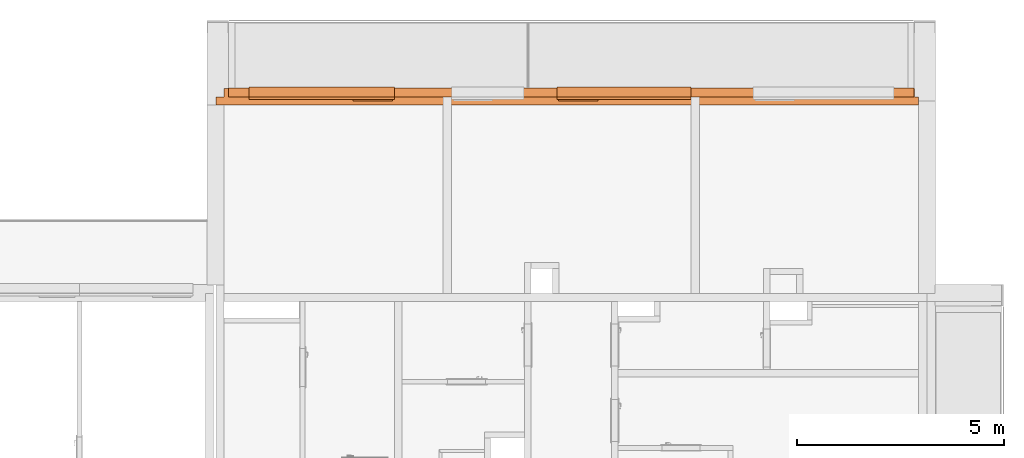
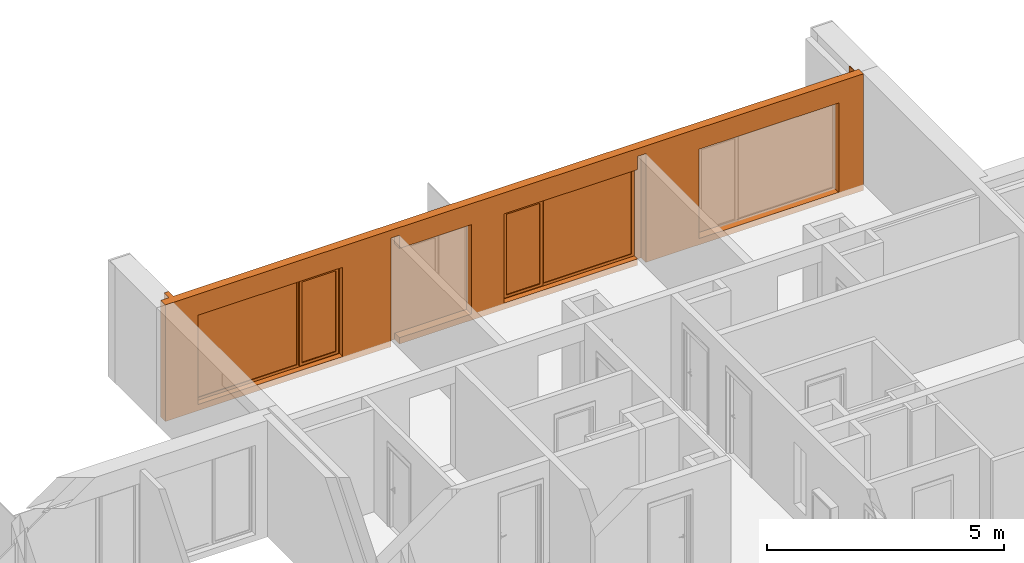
# One storey, part 48 of 64: 3 proxies, 4 openings.
"""IFC2X3 building model written with IfcOpenShell, lengths in millimetres."""

import ifcopenshell
import ifcopenshell.guid

model = None  # the IFC model being written
_history = None  # IfcOwnerHistory: only IFC2X3 demands one
_inside = {}  # id of a spatial element -> (the spatial element, [elements in it])
_under = {}  # id of a project, library or spatial element -> (it, [spatial elements below it])
_declared = {}  # id of a project -> (the project, [libraries it declares])
_typed = {}  # id of a type object -> (the type object, [elements of that type])
_made_of = {}  # id of a material, layer set ... -> (it, [elements and type objects made of it])


def new_model(schema):
    """Start an empty IFC model of exactly this schema.

    Asked for "IFC4X3", IfcOpenShell would pick the latest addendum, in which some entities
    have other attributes; the version numbers below select the first issue.
    IFC2X3 requires an IfcOwnerHistory on every rooted entity: one is made here for all.
    """
    global model, _history
    if schema == "IFC4X3":
        model = ifcopenshell.file(schema_version=(4, 3, 0, 0))
    else:
        model = ifcopenshell.file(schema=schema)
    _inside.clear()
    _under.clear()
    _declared.clear()
    _typed.clear()
    _made_of.clear()
    _history = None
    if model.schema == "IFC2X3":
        org = make("IfcOrganization", Name="unknown")
        user = make(
            "IfcPersonAndOrganization",
            ThePerson=make("IfcPerson", FamilyName="unknown"),
            TheOrganization=org,
        )
        app = make(
            "IfcApplication",
            ApplicationDeveloper=org,
            Version="unknown",
            ApplicationFullName="unknown",
            ApplicationIdentifier="unknown",
        )
        _history = make(
            "IfcOwnerHistory",
            OwningUser=user,
            OwningApplication=app,
            ChangeAction="ADDED",
            CreationDate=0,
        )
    return model


def make(cls, **values):
    """One entity of the class cls with the attributes given. An attribute that is None is left unset."""
    return model.create_entity(
        cls, **{name: value for name, value in values.items() if value is not None}
    )


def entity(cls, *values):
    """Any entity or typed value of the class cls, its attributes in the order of the schema. None: left unset."""
    e = model.create_entity(cls)
    for i, value in enumerate(values):
        if value is not None:
            e[i] = value
    return e


def rooted(cls, **values):
    """An entity with a GlobalId (a new one), such as an element, a storey or a relation."""
    return make(cls, GlobalId=ifcopenshell.guid.new(), OwnerHistory=_history, **values)


def si_unit(unit_type, name, prefix=None):
    """IfcSIUnit, for example si_unit("LENGTHUNIT", "METRE", prefix="MILLI")."""
    return make("IfcSIUnit", UnitType=unit_type, Prefix=prefix, Name=name)


def converted_unit(unit_type, name, factor, base, dimensions=None, offset=None):
    """IfcConversionBasedUnit, such as the inch: factor (a typed value) times the base unit."""
    return make(
        "IfcConversionBasedUnit"
        if offset is None
        else "IfcConversionBasedUnitWithOffset",
        ConversionOffset=offset,
        Dimensions=None
        if dimensions is None
        else entity("IfcDimensionalExponents", *dimensions),
        UnitType=unit_type,
        Name=name,
        ConversionFactor=make(
            "IfcMeasureWithUnit", ValueComponent=factor, UnitComponent=base
        ),
    )


def derived_unit(unit_type, elements):
    """IfcDerivedUnit: a product of units, each with its exponent."""
    return make(
        "IfcDerivedUnit",
        Elements=[
            make("IfcDerivedUnitElement", Unit=unit, Exponent=power)
            for unit, power in elements
        ],
        UnitType=unit_type,
    )


def money_unit(currency):
    """IfcMonetaryUnit."""
    return make("IfcMonetaryUnit", Currency=currency)


def assignment(units):
    """IfcUnitAssignment: the units of a project."""
    return None if units is None else make("IfcUnitAssignment", Units=units)


def point(xyz):
    """IfcCartesianPoint."""
    return None if xyz is None else make("IfcCartesianPoint", Coordinates=xyz)


def direction(xyz):
    """IfcDirection."""
    return None if xyz is None else make("IfcDirection", DirectionRatios=xyz)


def frame(location, z_axis=None, x_axis=None):
    """IfcAxis2Placement3D, a coordinate frame: its origin and axes. An axis left out is left unset."""
    return make(
        "IfcAxis2Placement3D",
        Location=point(location),
        Axis=direction(z_axis),
        RefDirection=direction(x_axis),
    )


def frame_2d(location, x_axis=None):
    """IfcAxis2Placement2D, a coordinate frame in the plane: its origin and x axis."""
    return make(
        "IfcAxis2Placement2D", Location=point(location), RefDirection=direction(x_axis)
    )


def origin_with_axes():
    """The frame at (0, 0, 0) with the z axis (0, 0, 1) and the x axis (1, 0, 0) written out."""
    return frame((0.0, 0.0, 0.0), z_axis=(0.0, 0.0, 1.0), x_axis=(1.0, 0.0, 0.0))


def origin_2d_with_axis():
    """The frame at (0, 0) in the plane with the x axis (1, 0) written out."""
    return frame_2d((0.0, 0.0), x_axis=(1.0, 0.0))


def place(relative_to, where):
    """IfcLocalPlacement: puts the frame where relative to a parent placement (None: the world)."""
    return make(
        "IfcLocalPlacement", PlacementRelTo=relative_to, RelativePlacement=where
    )


def context(
    kind, dimensions, precision=None, world=None, true_north=None, identifier=None
):
    """IfcGeometricRepresentationContext, for example the 3D "Model" context."""
    return make(
        "IfcGeometricRepresentationContext",
        ContextIdentifier=identifier,
        ContextType=kind,
        CoordinateSpaceDimension=dimensions,
        Precision=precision,
        WorldCoordinateSystem=world,
        TrueNorth=true_north,
    )


def subcontext(parent, identifier, kind, view, scale=None):
    """IfcGeometricRepresentationSubContext, for example "Body" below "Model"."""
    return make(
        "IfcGeometricRepresentationSubContext",
        ContextIdentifier=identifier,
        ContextType=kind,
        ParentContext=parent,
        TargetScale=scale,
        TargetView=view,
    )


def project(units=None, contexts=None):
    """IfcProject with its units and contexts."""
    return rooted(
        "IfcProject",
        Name="project",
        RepresentationContexts=contexts,
        UnitsInContext=assignment(units),
    )


def spatial(cls, under=None, at=None, **own):
    """A site, building, storey or space (cls), placed at a placement, below another one or the project."""
    s = rooted(cls, ObjectPlacement=at, **own)
    if under is not None:
        _under.setdefault(under.id(), (under, []))[1].append(s)
    return s


def profile(cls, at=None, kind="AREA", **sizes):
    """A parametric profile (cls). Its sizes go by their IFC names, for example OverallWidth=200.0."""
    return make(cls, ProfileType=kind, Position=at, **sizes)


def rectangle(**sizes):
    """IfcRectangleProfileDef."""
    return profile("IfcRectangleProfileDef", **sizes)


def extrude(swept, where, along, depth):
    """IfcExtrudedAreaSolid: the profile swept, set in the frame where, extruded along a direction by depth."""
    return make(
        "IfcExtrudedAreaSolid",
        SweptArea=swept,
        Position=where,
        ExtrudedDirection=direction(along),
        Depth=depth,
    )


def faces_of(points, faces, orient=None, outer=None):
    """IfcFace entities. A face is a list of loops; a loop is a list of indices into points, from 0.

    orient and outer hold one flag for each loop. By default every Orientation is true, the
    first loop of a face is its IfcFaceOuterBound and the others are IfcFaceBound.
    """
    made = []
    for i, loops in enumerate(faces):
        bounds = []
        for j, loop in enumerate(loops):
            is_outer = j == 0 if outer is None else outer[i][j]
            bounds.append(
                make(
                    "IfcFaceOuterBound" if is_outer else "IfcFaceBound",
                    Bound=make("IfcPolyLoop", Polygon=[points[k] for k in loop]),
                    Orientation=True if orient is None else orient[i][j],
                )
            )
        made.append(make("IfcFace", Bounds=bounds))
    return made


def open_shell(faces, orient=None, outer=None):
    """The faces of one IfcOpenShell. surface_model builds it on its shared points."""
    return ("IfcOpenShell", faces, orient, outer)


def faceted_brep(points, faces, orient=None, outer=None, voids=None):
    """IfcFacetedBrep: a solid bounded by flat faces; with voids (closed shells), ...WithVoids."""
    shared = [point(p) for p in points]
    hull = make("IfcClosedShell", CfsFaces=faces_of(shared, faces, orient, outer))
    if voids is None:
        return make("IfcFacetedBrep", Outer=hull)
    return make(
        "IfcFacetedBrepWithVoids",
        Outer=hull,
        Voids=[
            make(cls, CfsFaces=faces_of(shared, fs, o, b)) for cls, fs, o, b in voids
        ],
    )


def surface_model(cls, points, shells):
    """IfcFaceBasedSurfaceModel or IfcShellBasedSurfaceModel (cls): surfaces that need not close."""
    shared = [point(p) for p in points]
    made = [make(c, CfsFaces=faces_of(shared, fs, o, b)) for c, fs, o, b in shells]
    if cls == "IfcFaceBasedSurfaceModel":
        return make(cls, FbsmFaces=made)
    return make(cls, SbsmBoundary=made)


def shape(context_of_items, identifier, shape_type, items):
    """IfcShapeRepresentation: the items that make up one representation, for example the "Body"."""
    return make(
        "IfcShapeRepresentation",
        ContextOfItems=context_of_items,
        RepresentationIdentifier=identifier,
        RepresentationType=shape_type,
        Items=items,
    )


def source(mapping_origin, context_of_items, identifier, shape_type, items):
    """IfcRepresentationMap: a shape defined once, which mapped items show again and again."""
    return make(
        "IfcRepresentationMap",
        MappingOrigin=mapping_origin,
        MappedRepresentation=shape(context_of_items, identifier, shape_type, items),
    )


def transform(
    local_origin,
    x_axis=None,
    y_axis=None,
    z_axis=None,
    scale=None,
    scale2=None,
    scale3=None,
    uniform=True,
):
    """IfcCartesianTransformationOperator3D, or its non-uniform kind. x_axis, y_axis, z_axis: its Axis1, 2, 3."""
    if uniform:
        return make(
            "IfcCartesianTransformationOperator3D",
            Axis1=direction(x_axis),
            Axis2=direction(y_axis),
            LocalOrigin=point(local_origin),
            Scale=scale,
            Axis3=direction(z_axis),
        )
    return make(
        "IfcCartesianTransformationOperator3DnonUniform",
        Axis1=direction(x_axis),
        Axis2=direction(y_axis),
        LocalOrigin=point(local_origin),
        Scale=scale,
        Axis3=direction(z_axis),
        Scale2=scale2,
        Scale3=scale3,
    )


def mapped(mapping_source, mapping_target):
    """IfcMappedItem: shows the shape of a source again, moved by a transform."""
    return make(
        "IfcMappedItem", MappingSource=mapping_source, MappingTarget=mapping_target
    )


def material(Name=None, Category=None):
    """IfcMaterial."""
    return make("IfcMaterial", Name=Name, Category=Category)


def material_list(materials):
    """IfcMaterialList."""
    return make("IfcMaterialList", Materials=materials)


def made_of(thing, what):
    """Note that an element or type object is made of a material, layer set ...; save() writes the relation."""
    if what is not None:
        _made_of.setdefault(what.id(), (what, []))[1].append(thing)
    return thing


def type_object(cls, material=None, **own):
    """A type object (cls), such as IfcWallType, which elements share."""
    return made_of(rooted(cls, **own), material)


def element(
    cls,
    number,
    at=None,
    inside=None,
    cuts=None,
    type_object=None,
    material=None,
    context=None,
    identifier="Body",
    shape_type=None,
    held_by="IfcProductDefinitionShape",
    body=None,
    shapes=None,
    **own,
):
    """One element of the class cls, such as IfcWall. Its Tag is "e" and its number.

    at: its placement. inside: the storey or other place that contains it. cuts: it is an
    opening in that element (IfcRelVoidsElement). A single representation is given by context,
    identifier, shape_type and body (its items); several are given by shapes. held_by: the class
    of the entity that holds the representations. save() writes the other relations.
    """
    e = rooted(cls, Tag="e%d" % number, ObjectPlacement=at, **own)
    if body is not None:
        shapes = [shape(context, identifier, shape_type, body)]
    if shapes is not None:
        e.Representation = make(held_by, Representations=shapes)
    if inside is not None:
        _inside.setdefault(inside.id(), (inside, []))[1].append(e)
    if cuts is not None:
        rooted(
            "IfcRelVoidsElement", RelatingBuildingElement=cuts, RelatedOpeningElement=e
        )
    if type_object is not None:
        _typed.setdefault(type_object.id(), (type_object, []))[1].append(e)
    return made_of(e, material)


def fill(opening, filler):
    """IfcRelFillsElement: the door or window that sits in an opening."""
    return rooted(
        "IfcRelFillsElement",
        RelatingOpeningElement=opening,
        RelatedBuildingElement=filler,
    )


def aggregate(whole, parts):
    """IfcRelAggregates: a whole, such as a stair, and the parts it consists of."""
    return rooted("IfcRelAggregates", RelatingObject=whole, RelatedObjects=parts)


def save(model, path):
    """Write the relations noted so far, then the file.

    IfcRelAggregates (storeys below a building ...), IfcRelContainedInSpatialStructure (elements
    in a storey), IfcRelDefinesByType, IfcRelAssociatesMaterial and IfcRelDeclares: one each for
    every whole, place, type object, material and project.
    """
    for whole, parts in _under.values():
        aggregate(whole, parts)
    for where, things in _inside.values():
        rooted(
            "IfcRelContainedInSpatialStructure",
            RelatedElements=things,
            RelatingStructure=where,
        )
    for kind, things in _typed.values():
        rooted("IfcRelDefinesByType", RelatedObjects=things, RelatingType=kind)
    for what, things in _made_of.values():
        rooted("IfcRelAssociatesMaterial", RelatedObjects=things, RelatingMaterial=what)
    for by, libraries in _declared.values():
        rooted("IfcRelDeclares", RelatingContext=by, RelatedDefinitions=libraries)
    model.write(path)


model = new_model("IFC2X3")

# Units and contexts
model_context = context("Model", 3, precision=0.01, world=origin_with_axes(), true_north=direction((0.34421633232, 0.938890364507)))
body_context = subcontext(model_context, "Body", "Model", "MODEL_VIEW")
ifc_project = project(units=[si_unit("LENGTHUNIT", "METRE", prefix="MILLI"), si_unit("AREAUNIT", "SQUARE_METRE"), si_unit("VOLUMEUNIT", "CUBIC_METRE"), converted_unit("PLANEANGLEUNIT", "DEGREE", entity("IfcPlaneAngleMeasure", 0.0174532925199), si_unit("PLANEANGLEUNIT", "RADIAN"), dimensions=[0, 0, 0, 0, 0, 0, 0]), si_unit("SOLIDANGLEUNIT", "STERADIAN"), money_unit("USD"), converted_unit("TIMEUNIT", "Year", entity("IfcTimeMeasure", 31556926.0), si_unit("TIMEUNIT", "SECOND"), dimensions=[0, 0, 1, 0, 0, 0, 0]), si_unit("MASSUNIT", "GRAM", prefix="KILO"), si_unit("THERMODYNAMICTEMPERATUREUNIT", "DEGREE_CELSIUS"), si_unit("LUMINOUSINTENSITYUNIT", "LUMEN"), si_unit("ENERGYUNIT", "JOULE", prefix="MEGA"), derived_unit("THERMALCONDUCTANCEUNIT", [(si_unit("POWERUNIT", "WATT"), 1), (si_unit("LENGTHUNIT", "METRE"), -1), (si_unit("THERMODYNAMICTEMPERATUREUNIT", "KELVIN"), -1)]), derived_unit("SPECIFICHEATCAPACITYUNIT", [(si_unit("ENERGYUNIT", "JOULE"), 1), (si_unit("MASSUNIT", "GRAM", prefix="KILO"), -1), (si_unit("THERMODYNAMICTEMPERATUREUNIT", "KELVIN"), -1)]), derived_unit("MASSDENSITYUNIT", [(si_unit("MASSUNIT", "GRAM", prefix="KILO"), 1), (si_unit("VOLUMEUNIT", "CUBIC_METRE"), -1)])], contexts=[model_context])

# Site, building, storey
site_placement = place(None, origin_with_axes())
site = spatial("IfcSite", under=ifc_project, at=site_placement, Name="USTRONIE MORSKIE", CompositionType="ELEMENT")
building_placement = place(site_placement, origin_with_axes())
building = spatial("IfcBuilding", under=site, at=building_placement, Name="Budynek", CompositionType="ELEMENT")
storey_placement = place(building_placement, frame((0.0, 0.0, 7000.0), z_axis=(0.0, 0.0, 1.0), x_axis=(1.0, 0.0, 0.0)))
storey = spatial("IfcBuildingStorey", under=building, at=storey_placement, Name="PIĘTRO 2", CompositionType="ELEMENT", Elevation=7000.0)

# Proxies, openings
ifc_material_1 = material(Name="Beton konstrukcyjny B25")
ifc_material_2 = material(Name="Wełna ELEW")
ifc_material_3 = material(Name="Tynk zewnętrzny")
ifc_material_list = material_list([ifc_material_1, ifc_material_2, ifc_material_3])
building_element_proxy_type_1 = type_object("IfcBuildingElementProxyType", Name="20+20 410", PredefinedType="NOTDEFINED")
proxy_1_placement = place(storey_placement, frame((425567.928129, 749451.184716, -160.0), z_axis=(0.0, 0.0, 1.0), x_axis=(-1.0, 8.42333606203e-07, 0.0)))
proxy_1 = element("IfcBuildingElementProxy", 1, at=proxy_1_placement, inside=storey, type_object=building_element_proxy_type_1, material=ifc_material_list, Name="SZ-01", context=body_context, shape_type="Brep", body=[
    faceted_brep([(11400.0072945, -100.0, 0.0), (11400.0072945, -99.9999999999, 2800.0), (11600.0072945, -99.9999999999, 2800.0), (11600.0072945, -100.0, 0.0), (17100.0072945, -100.0, -4.94591034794e-08), (17100.0072945, -100.0, 3000.0), (100.007294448, -99.9999999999, 3000.0), (100.007294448, -99.9999999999, -1.44982692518e-07), (5400.00729445, -100.0, 0.0), (5400.00729445, -100.0, 2800.0), (5600.00729445, -100.0, 2800.0), (5600.00729445, -100.0, 0.0), (11400.007126, 100.0, 0.0), (11400.007126, 100.0, 2800.0), (11600.007126, 100.0, 2800.0), (11600.007126, 100.0, 0.0), (17100.007126, 100.0, -4.94591034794e-08), (17100.007126, 100.0, 3000.0), (100.007125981, 100.0, 3000.0), (100.007210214, 8.42334202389e-05, 3000.0), (100.007210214, 8.42334202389e-05, 0.0), (100.007125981, 100.0, 0.0), (5400.00712598, 100.0, 0.0), (5400.00712598, 100.0, 2800.0), (5600.00712598, 100.0, 2800.0), (5600.00712598, 100.0, 0.0)], [[[0, 1, 2, 3, 4, 5, 6, 7, 8, 9, 10, 11]], [[12, 13, 1, 0]], [[13, 14, 2, 1]], [[14, 15, 3, 2]], [[16, 4, 3, 15]], [[4, 16, 17, 5]], [[5, 17, 18, 19, 6]], [[19, 20, 7, 6]], [[20, 21, 22, 8, 7]], [[22, 23, 9, 8]], [[23, 24, 10, 9]], [[24, 25, 11, 10]], [[11, 25, 12, 0]], [[15, 14, 13, 12, 25, 24, 23, 22, 21, 18, 17, 16]], [[21, 20, 19, 18]]]),
    faceted_brep([(16900.0072945, -100.0, -8.13678013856e-08), (16900.0072945, -100.0, 3000.0), (16900.0074629, -300.0, 3000.0), (16900.0074629, -300.0, -8.13678013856e-08), (200.007294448, -99.9999999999, -2.8271545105e-06), (200.007294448, -99.9999999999, 3000.0), (1425.3540558, -99.9999999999, 3000.0), (1425.3540558, -99.9999999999, 2799.99999896), (16790.1383035, -100.0, 2799.99999896), (16790.1383035, -100.0, 3000.0), (16790.1393008, -199.846511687, 3000.00002271), (16790.1402996, -299.846536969, 3000.00002271), (16790.1403011, -300.0, 2999.99999495), (16790.1403011, -300.0, 9.99999623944), (16790.1403011, -300.0, 2.27125616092e-05), (16790.1403011, -300.0, 2800.00001288), (210.140300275, -300.0, 2800.00001286), (210.140300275, -300.0, 3000.0), (200.007462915, -300.0, 3000.0), (200.007462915, -300.0, -2.8271545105e-06), (1425.04762404, -300.0, 2.27125616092e-05), (1422.91502502, -300.0, 9.99999623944), (16790.1402996, -299.846536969, 2.27125616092e-05), (210.139301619, -200.012108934, 3000.00002271), (210.138302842, -100.012137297, 3000.00002048), (210.138302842, -100.012137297, 2799.99999896), (210.139301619, -200.012108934, 2799.99999896), (16790.1393008, -199.846511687, 2799.99999896), (16790.1402996, -299.84651567, 9.99999623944)], [[[0, 1, 2, 3]], [[1, 0, 4, 5, 6, 7, 8, 9]], [[10, 11, 12, 2, 1, 9]], [[13, 14, 3, 2, 12, 15, 16, 17, 18, 19, 20, 21]], [[0, 3, 14, 22, 20, 19, 4]], [[5, 4, 19, 18]], [[6, 5, 18, 17, 23, 24]], [[7, 6, 24, 25]], [[26, 27, 8, 7, 25]], [[11, 10, 9, 8, 27, 15, 12]], [[28, 22, 14, 13]], [[27, 26, 16, 15]], [[16, 26, 25, 24, 23, 17]], [[22, 28, 21, 20]], [[28, 13, 21]]]),
    faceted_brep([(16800.0074629, -300.0, -9.73230385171e-08), (16800.0074713, -310.0, -9.73230385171e-08), (16790.140401, -310.0, -9.89466286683e-08), (16790.1403011, -300.0, -9.89466286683e-08), (16800.0074629, -300.0, 3000.0), (16800.0074713, -310.0, 3000.0), (16790.140401, -310.0, 9.99999623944), (16790.140401, -310.0, 2999.9999951), (16790.140401, -310.0, 2789.99999183), (1365.56748394, -310.0, 2789.99999183), (1414.0415408, -310.0, 2800.00001425), (210.140400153, -310.0, 2800.00001425), (210.140400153, -310.0, 2999.9999951), (210.007471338, -310.0, 3000.0), (210.007471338, -310.0, -2.8271545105e-06), (210.140400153, -310.0, 2.27125616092e-05), (210.140400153, -310.0, 9.99999623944), (16790.1403011, -300.0, 9.99999623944), (1422.91503021, -300.0, 9.99999623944), (1422.91503018, -300.0, -2.62757460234e-06), (210.007462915, -300.0, -2.8271545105e-06), (210.007462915, -300.0, 3000.0), (210.140300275, -300.0, 3000.0), (210.140300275, -300.0, 2800.00001286), (16790.1403011, -300.0, 2800.00001288), (16790.1403011, -300.0, 2999.99999495), (16790.1403994, -309.845942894, 2789.99999183), (16790.1403994, -309.846427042, 2800.00001425), (210.140300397, -300.012134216, 3000.00002271), (210.140300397, -300.012134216, 2.27125616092e-05), (210.140300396, -300.012112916, 9.99999623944)], [[[0, 1, 2, 3]], [[0, 4, 5, 1]], [[6, 2, 1, 5, 7, 8, 9, 10, 11, 12, 13, 14, 15, 16]], [[2, 6, 17, 3]], [[4, 0, 3, 17, 18, 19, 20, 21, 22, 23, 24, 25]], [[25, 7, 5, 4]], [[26, 8, 7, 25, 24, 27]], [[8, 26, 9]], [[26, 27, 10, 9]], [[27, 24, 23, 11, 10]], [[12, 11, 23, 22, 28]], [[12, 28, 22, 21, 13]], [[21, 20, 14, 13]], [[19, 29, 15, 14, 20]], [[16, 15, 29, 30]], [[17, 6, 16, 30, 18]], [[29, 19, 18, 30]]]),
])
opening_1_placement = place(proxy_1_placement, frame((14540.0100422, 0.0, 160.0), z_axis=(0.0, 0.0, 1.0), x_axis=(1.0, 0.0, 0.0)))
opening_1 = element("IfcOpeningElement", 2, at=opening_1_placement, cuts=proxy_1, Name="Wz.02", context=body_context, shape_type="SweptSolid", body=[
    extrude(rectangle(XDim=3520.00004519, YDim=2300.0, at=origin_2d_with_axis()), frame((0.0, -100.0, 1150.0), z_axis=(0.0, -1.0, 0.0), x_axis=(-1.0, 0.0, 0.0)), (0.0, 0.0, 1.0), 620.0),
    extrude(rectangle(XDim=3520.00004519, YDim=2300.0, at=origin_2d_with_axis()), frame((0.0, -100.0, 1150.0), z_axis=(0.0, 1.0, 0.0), x_axis=(-1.0, 0.0, 0.0)), (0.0, 0.0, 1.0), 610.0),
])
opening_2_placement = place(proxy_1_placement, frame((7225.00654666, 0.0, 160.0), z_axis=(0.0, 0.0, 1.0), x_axis=(1.0, 0.0, 0.0)))
opening_2 = element("IfcOpeningElement", 3, at=opening_2_placement, cuts=proxy_1, Name="Wz.02", context=body_context, shape_type="SweptSolid", body=[
    extrude(rectangle(XDim=3249.99884135, YDim=2300.0, at=origin_2d_with_axis()), frame((0.0, -100.0, 1150.0), z_axis=(0.0, 1.0, 0.0), x_axis=(1.0, 0.0, 0.0)), (0.0, 0.0, -1.0), 620.0),
    extrude(rectangle(XDim=3249.99884135, YDim=2300.0, at=origin_2d_with_axis()), frame((-1.13686837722e-10, -100.0, 1150.0), z_axis=(0.0, -1.0, 0.0), x_axis=(1.0, 0.0, 0.0)), (0.0, 0.0, -1.0), 610.0),
])
opening_3_placement = place(proxy_1_placement, frame((2400.00971943, 1.13686837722e-10, 160.0), z_axis=(0.0, 0.0, 1.0), x_axis=(1.0, 0.0, 0.0)))
element("IfcOpeningElement", 4, at=opening_3_placement, cuts=proxy_1, Name="Wz.02", context=body_context, shape_type="SweptSolid", body=[
    extrude(rectangle(XDim=3400.0, YDim=2300.0, at=origin_2d_with_axis()), frame((0.0, -100.0, 1150.0), z_axis=(0.0, 1.0, 0.0), x_axis=(1.0, 0.0, 0.0)), (0.0, 0.0, -1.0), 620.0),
    extrude(rectangle(XDim=3400.0, YDim=2300.0, at=origin_2d_with_axis()), frame((0.0, -100.0, 1150.0), z_axis=(0.0, -1.0, 0.0), x_axis=(1.0, 0.0, 0.0)), (0.0, 0.0, -1.0), 610.0),
])
opening_4_placement = place(proxy_1_placement, frame((10525.0074713, 1.13686837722e-10, 160.0), z_axis=(0.0, 0.0, 1.0), x_axis=(1.0, 0.0, 0.0)))
element("IfcOpeningElement", 5, at=opening_4_placement, cuts=proxy_1, Name="Wz.01", context=body_context, shape_type="SweptSolid", body=[
    extrude(rectangle(XDim=1750.0, YDim=2300.0, at=origin_2d_with_axis()), frame((0.0, -100.0, 1150.0), z_axis=(0.0, 1.0, 0.0), x_axis=(1.0, 0.0, 0.0)), (0.0, 0.0, -1.0), 620.0),
    extrude(rectangle(XDim=1750.0, YDim=2300.0, at=origin_2d_with_axis()), frame((0.0, -100.0, 1150.0), z_axis=(0.0, -1.0, 0.0), x_axis=(1.0, 0.0, 0.0)), (0.0, 0.0, -1.0), 610.0),
])
building_element_proxy_type_2 = type_object("IfcBuildingElementProxyType", Name="Okno podwójne 23", PredefinedType="NOTDEFINED")
shared_shape_1 = source(origin_with_axes(), body_context, "Body", "SurfaceModel", [
    surface_model("IfcShellBasedSurfaceModel", [(1760.00002259, -66.0, 50.0), (-1760.00002259, -66.0, 50.0), (-1760.00002259, -66.0, 40.0), (1760.00002259, -66.0, 40.0), (-1760.00002259, -305.0, 28.5714285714), (1760.00002259, -305.0, 28.5714285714), (-1760.00002259, -305.0, 8.57142857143), (1760.00002259, -305.0, 8.57142857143), (-1760.00002259, -295.0, 18.5714285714), (1760.00002259, -295.0, 18.5714285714)], [open_shell([[[0, 1, 2, 3]], [[3, 2, 4, 5]], [[5, 4, 6, 7]], [[7, 6, 8, 9]]])]),
    faceted_brep([(-1690.00002259, -25.0, 2230.0), (-1715.00002259, -25.0, 2230.0), (-1715.00002259, 0.0, 2230.0), (-1760.00002259, 0.0, 2230.0), (-1760.00002259, -65.0, 2230.0), (-1690.00002259, -65.0, 2230.0), (-1690.00002259, -25.0, 70.0), (-1715.00002259, -25.0, 70.0), (-1715.00002259, 0.0, 70.0), (-1760.00002259, 0.0, 70.0), (-1760.00002259, -65.0, 70.0), (-1690.00002259, -65.0, 70.0)], [[[0, 1, 2, 3, 4, 5]], [[1, 0, 6, 7]], [[8, 2, 1, 7]], [[2, 8, 9, 3]], [[9, 10, 4, 3]], [[10, 11, 5, 4]], [[6, 0, 5, 11]], [[7, 6, 11, 10, 9, 8]]]),
    faceted_brep([(-762.500022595, 0.0, 2230.0), (-762.500022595, -25.0, 2230.0), (-787.500022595, -25.0, 2230.0), (-787.500022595, -65.0, 2230.0), (-722.500022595, -65.0, 2230.0), (-722.500022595, 0.0, 2230.0), (-762.500022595, 0.0, 70.0), (-762.500022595, -25.0, 70.0), (-787.500022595, -25.0, 70.0), (-787.500022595, -65.0, 70.0), (-722.500022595, -65.0, 70.0), (-722.500022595, 0.0, 70.0)], [[[0, 1, 2, 3, 4, 5]], [[1, 0, 6, 7]], [[8, 2, 1, 7]], [[2, 8, 9, 3]], [[9, 10, 4, 3]], [[5, 4, 10, 11]], [[6, 0, 5, 11]], [[7, 6, 11, 10, 9, 8]]]),
    faceted_brep([(-1690.00002259, -25.0, 70.0), (-1715.00002259, -25.0, 70.0), (-1715.00002259, 0.0, 70.0), (-1760.00002259, 0.0, 70.0), (-1760.00002259, -65.0, 70.0), (-1690.00002259, -65.0, 70.0), (-787.500022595, -25.0, 70.0), (-762.500022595, -25.0, 70.0), (-762.500022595, -25.0, 45.0), (-1715.00002259, -25.0, 45.0), (-1715.00002259, 0.0, 45.0), (-762.500022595, 0.0, 45.0), (-762.500022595, 0.0, 70.0), (-722.500022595, 0.0, 70.0), (1690.00002259, 0.0, 70.0), (1760.00002259, 0.0, 70.0), (1760.00002259, 0.0, 0.0), (-1760.00002259, 0.0, 0.0), (-1760.00002259, -65.0, 0.0), (1760.00002259, -65.0, 70.0), (1690.00002259, -65.0, 70.0), (-722.500022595, -65.0, 70.0), (-787.500022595, -65.0, 70.0), (1760.00002259, -65.0, 0.0)], [[[0, 1, 2, 3, 4, 5]], [[1, 0, 6, 7, 8, 9]], [[10, 2, 1, 9]], [[11, 12, 13, 14, 15, 16, 17, 3, 2, 10]], [[17, 18, 4, 3]], [[19, 20, 21, 22, 5, 4, 18, 23]], [[6, 0, 5, 22]], [[7, 6, 22, 21, 13, 12]], [[7, 12, 11, 8]], [[11, 10, 9, 8]], [[13, 21, 20, 14]], [[14, 20, 19, 15]], [[15, 19, 23, 16]], [[16, 23, 18, 17]]]),
    faceted_brep([(-762.500022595, 0.0, 2230.0), (-762.500022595, 0.0, 2255.0), (-1715.00002259, 0.0, 2255.0), (-1715.00002259, 0.0, 2230.0), (-1760.00002259, 0.0, 2230.0), (-1760.00002259, 0.0, 2300.0), (1760.00002259, 0.0, 2300.0), (1760.00002259, 0.0, 2230.0), (1690.00002259, 0.0, 2230.0), (-722.500022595, 0.0, 2230.0), (-762.500022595, -25.0, 2230.0), (-762.500022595, -25.0, 2255.0), (-1715.00002259, -25.0, 2255.0), (-1715.00002259, -25.0, 2230.0), (-1690.00002259, -25.0, 2230.0), (-1690.00002259, -65.0, 2230.0), (-1760.00002259, -65.0, 2230.0), (-1760.00002259, -65.0, 2300.0), (1760.00002259, -65.0, 2300.0), (1760.00002259, -65.0, 2230.0), (1690.00002259, -65.0, 2230.0), (-722.500022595, -65.0, 2230.0), (-787.500022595, -65.0, 2230.0), (-787.500022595, -25.0, 2230.0)], [[[0, 1, 2, 3, 4, 5, 6, 7, 8, 9]], [[1, 0, 10, 11]], [[2, 1, 11, 12]], [[3, 2, 12, 13]], [[13, 14, 15, 16, 4, 3]], [[4, 16, 17, 5]], [[5, 17, 18, 6]], [[6, 18, 19, 7]], [[7, 19, 20, 8]], [[8, 20, 21, 9]], [[10, 0, 9, 21, 22, 23]], [[14, 13, 12, 11, 10, 23]], [[14, 23, 22, 15]], [[22, 21, 20, 19, 18, 17, 16, 15]]]),
    faceted_brep([(1690.00002259, -65.0, 2230.0), (1760.00002259, -65.0, 2230.0), (1760.00002259, 0.0, 2230.0), (1690.00002259, 0.0, 2230.0), (1690.00002259, -65.0, 70.0), (1760.00002259, -65.0, 70.0), (1760.00002259, 0.0, 70.0), (1690.00002259, 0.0, 70.0)], [[[0, 1, 2, 3]], [[0, 4, 5, 1]], [[1, 5, 6, 2]], [[3, 2, 6, 7]], [[4, 0, 3, 7]], [[5, 4, 7, 6]]]),
    surface_model("IfcShellBasedSurfaceModel", [(1690.00002259, -35.0, 70.0), (1690.00002259, -35.0, 2230.0), (-722.500022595, -35.0, 2230.0), (-722.500022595, -35.0, 70.0)], [open_shell([[[0, 1, 2, 3]]])]),
    surface_model("IfcShellBasedSurfaceModel", [(1690.00002259, -15.0, 70.0), (-722.500022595, -15.0, 70.0), (-722.500022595, -15.0, 2230.0), (1690.00002259, -15.0, 2230.0)], [open_shell([[[0, 1, 2, 3]]])]),
    faceted_brep([(-827.500022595, -25.0, 2190.0), (-762.500022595, -25.0, 2190.0), (-762.500022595, 40.0, 2190.0), (-827.500022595, 40.0, 2190.0), (-827.500022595, -25.0, 110.0), (-762.500022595, -25.0, 110.0), (-762.500022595, 40.0, 110.0), (-827.500022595, 40.0, 110.0)], [[[0, 1, 2, 3]], [[0, 4, 5, 1]], [[1, 5, 6, 2]], [[3, 2, 6, 7]], [[4, 0, 3, 7]], [[5, 4, 7, 6]]]),
    faceted_brep([(-1650.00002259, -25.0, 110.0), (-1715.00002259, -25.0, 110.0), (-1715.00002259, 40.0, 110.0), (-1650.00002259, 40.0, 110.0), (-1650.00002259, -25.0, 2190.0), (-1715.00002259, -25.0, 2190.0), (-1715.00002259, 40.0, 2190.0), (-1650.00002259, 40.0, 2190.0)], [[[0, 1, 2, 3]], [[0, 4, 5, 1]], [[1, 5, 6, 2]], [[3, 2, 6, 7]], [[4, 0, 3, 7]], [[5, 4, 7, 6]]]),
    faceted_brep([(-1715.00002259, -25.0, 45.0), (-1715.00002259, -25.0, 110.0), (-1715.00002259, 40.0, 110.0), (-1715.00002259, 40.0, 45.0), (-762.500022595, -25.0, 45.0), (-762.500022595, -25.0, 110.0), (-827.500022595, -25.0, 110.0), (-1650.00002259, -25.0, 110.0), (-1650.00002259, 40.0, 110.0), (-827.500022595, 40.0, 110.0), (-762.500022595, 40.0, 110.0), (-762.500022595, 40.0, 45.0)], [[[0, 1, 2, 3]], [[0, 4, 5, 6, 7, 1]], [[1, 7, 8, 2]], [[3, 2, 8, 9, 10, 11]], [[4, 0, 3, 11]], [[5, 4, 11, 10]], [[6, 5, 10, 9]], [[7, 6, 9, 8]]]),
    faceted_brep([(-762.500022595, -25.0, 2255.0), (-762.500022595, -25.0, 2190.0), (-762.500022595, 40.0, 2190.0), (-762.500022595, 40.0, 2255.0), (-1715.00002259, -25.0, 2255.0), (-1715.00002259, -25.0, 2190.0), (-1650.00002259, -25.0, 2190.0), (-827.500022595, -25.0, 2190.0), (-827.500022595, 40.0, 2190.0), (-1650.00002259, 40.0, 2190.0), (-1715.00002259, 40.0, 2190.0), (-1715.00002259, 40.0, 2255.0)], [[[0, 1, 2, 3]], [[0, 4, 5, 6, 7, 1]], [[1, 7, 8, 2]], [[3, 2, 8, 9, 10, 11]], [[4, 0, 3, 11]], [[5, 4, 11, 10]], [[6, 5, 10, 9]], [[7, 6, 9, 8]]]),
    surface_model("IfcShellBasedSurfaceModel", [(-827.500022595, -2.5, 110.0), (-827.500022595, -2.5, 2190.0), (-1650.00002259, -2.5, 2190.0), (-1650.00002259, -2.5, 110.0)], [open_shell([[[0, 1, 2, 3]]])]),
    surface_model("IfcShellBasedSurfaceModel", [(-827.500022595, 17.5, 110.0), (-1650.00002259, 17.5, 110.0), (-1650.00002259, 17.5, 2190.0), (-827.500022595, 17.5, 2190.0)], [open_shell([[[0, 1, 2, 3]]])]),
])
proxy_2_placement = place(opening_1_placement, frame((-1760.00002259, 0.0, 0.0), z_axis=(0.0, 0.0, 1.0), x_axis=(1.0, 0.0, 0.0)))
proxy_2 = element("IfcBuildingElementProxy", 6, at=proxy_2_placement, inside=storey, type_object=building_element_proxy_type_2, Name="Wz.02", context=body_context, shape_type="MappedRepresentation", body=[
    mapped(shared_shape_1, transform((1760.00002259, -35.0000000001, 0.0))),
])
fill(opening_1, proxy_2)
shared_shape_2 = source(origin_with_axes(), body_context, "Body", "SurfaceModel", [
    surface_model("IfcShellBasedSurfaceModel", [(-1624.99942067, -66.0, 50.0), (-1624.99942067, -66.0, 40.0), (1624.99942067, -66.0, 40.0), (1624.99942067, -66.0, 50.0), (-1624.99942067, -305.0, 28.5714285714), (1624.99942067, -305.0, 28.5714285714), (-1624.99942067, -305.0, 8.57142857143), (1624.99942067, -305.0, 8.57142857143), (-1624.99942067, -295.0, 18.5714285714), (1624.99942067, -295.0, 18.5714285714)], [open_shell([[[0, 1, 2, 3]], [[1, 4, 5, 2]], [[4, 6, 7, 5]], [[6, 8, 9, 7]]])]),
    faceted_brep([(1554.99942067, -25.0, 2230.0), (1554.99942067, -65.0, 2230.0), (1624.99942067, -65.0, 2230.0), (1624.99942067, 0.0, 2230.0), (1579.99942067, 0.0, 2230.0), (1579.99942067, -25.0, 2230.0), (1554.99942067, -25.0, 70.0), (1554.99942067, -65.0, 70.0), (1624.99942067, -65.0, 70.0), (1624.99942067, 0.0, 70.0), (1579.99942067, 0.0, 70.0), (1579.99942067, -25.0, 70.0)], [[[0, 1, 2, 3, 4, 5]], [[6, 7, 1, 0]], [[8, 2, 1, 7]], [[9, 3, 2, 8]], [[4, 3, 9, 10]], [[10, 11, 5, 4]], [[5, 11, 6, 0]], [[11, 10, 9, 8, 7, 6]]]),
    faceted_brep([(627.499420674, 0.0, 2230.0), (587.499420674, 0.0, 2230.0), (587.499420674, -65.0, 2230.0), (652.499420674, -65.0, 2230.0), (652.499420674, -25.0, 2230.0), (627.499420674, -25.0, 2230.0), (627.499420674, 0.0, 70.0), (587.499420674, 0.0, 70.0), (587.499420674, -65.0, 70.0), (652.499420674, -65.0, 70.0), (652.499420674, -25.0, 70.0), (627.499420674, -25.0, 70.0)], [[[0, 1, 2, 3, 4, 5]], [[6, 7, 1, 0]], [[1, 7, 8, 2]], [[9, 3, 2, 8]], [[4, 3, 9, 10]], [[10, 11, 5, 4]], [[5, 11, 6, 0]], [[11, 10, 9, 8, 7, 6]]]),
    faceted_brep([(1554.99942067, -25.0, 70.0), (1554.99942067, -65.0, 70.0), (1624.99942067, -65.0, 70.0), (1624.99942067, 0.0, 70.0), (1579.99942067, 0.0, 70.0), (1579.99942067, -25.0, 70.0), (652.499420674, -25.0, 70.0), (652.499420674, -65.0, 70.0), (-1624.99942067, -65.0, 70.0), (-1624.99942067, -65.0, 0.0), (1624.99942067, -65.0, 0.0), (587.499420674, -65.0, 70.0), (-1554.99942067, -65.0, 70.0), (1624.99942067, 0.0, 0.0), (627.499420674, 0.0, 45.0), (1579.99942067, 0.0, 45.0), (-1624.99942067, 0.0, 0.0), (-1624.99942067, 0.0, 70.0), (-1554.99942067, 0.0, 70.0), (587.499420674, 0.0, 70.0), (627.499420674, 0.0, 70.0), (1579.99942067, -25.0, 45.0), (627.499420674, -25.0, 45.0), (627.499420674, -25.0, 70.0)], [[[0, 1, 2, 3, 4, 5]], [[6, 7, 1, 0]], [[8, 9, 10, 2, 1, 7, 11, 12]], [[13, 3, 2, 10]], [[14, 15, 4, 3, 13, 16, 17, 18, 19, 20]], [[15, 21, 5, 4]], [[5, 21, 22, 23, 6, 0]], [[23, 20, 19, 11, 7, 6]], [[17, 16, 9, 8]], [[16, 13, 10, 9]], [[19, 18, 12, 11]], [[18, 17, 8, 12]], [[14, 22, 21, 15]], [[23, 22, 14, 20]]]),
    faceted_brep([(627.499420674, 0.0, 2230.0), (587.499420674, 0.0, 2230.0), (-1554.99942067, 0.0, 2230.0), (-1624.99942067, 0.0, 2230.0), (-1624.99942067, 0.0, 2300.0), (1624.99942067, 0.0, 2300.0), (1624.99942067, 0.0, 2230.0), (1579.99942067, 0.0, 2230.0), (1579.99942067, 0.0, 2255.0), (627.499420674, 0.0, 2255.0), (627.499420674, -25.0, 2230.0), (652.499420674, -25.0, 2230.0), (652.499420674, -65.0, 2230.0), (587.499420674, -65.0, 2230.0), (-1554.99942067, -65.0, 2230.0), (-1624.99942067, -65.0, 2230.0), (-1624.99942067, -65.0, 2300.0), (1624.99942067, -65.0, 2300.0), (1624.99942067, -65.0, 2230.0), (1579.99942067, -25.0, 2230.0), (1554.99942067, -65.0, 2230.0), (1554.99942067, -25.0, 2230.0), (1579.99942067, -25.0, 2255.0), (627.499420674, -25.0, 2255.0)], [[[0, 1, 2, 3, 4, 5, 6, 7, 8, 9]], [[10, 11, 12, 13, 1, 0]], [[2, 1, 13, 14]], [[3, 2, 14, 15]], [[4, 3, 15, 16]], [[5, 4, 16, 17]], [[6, 5, 17, 18]], [[19, 7, 6, 18, 20, 21]], [[7, 19, 22, 8]], [[8, 22, 23, 9]], [[9, 23, 10, 0]], [[21, 11, 10, 23, 22, 19]], [[21, 20, 12, 11]], [[12, 20, 18, 17, 16, 15, 14, 13]]]),
    faceted_brep([(-1554.99942067, -65.0, 2230.0), (-1554.99942067, 0.0, 2230.0), (-1624.99942067, 0.0, 2230.0), (-1624.99942067, -65.0, 2230.0), (-1554.99942067, -65.0, 70.0), (-1554.99942067, 0.0, 70.0), (-1624.99942067, 0.0, 70.0), (-1624.99942067, -65.0, 70.0)], [[[0, 1, 2, 3]], [[4, 5, 1, 0]], [[1, 5, 6, 2]], [[3, 2, 6, 7]], [[0, 3, 7, 4]], [[7, 6, 5, 4]]]),
    surface_model("IfcShellBasedSurfaceModel", [(-1554.99942067, -35.0, 70.0), (587.499420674, -35.0, 70.0), (587.499420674, -35.0, 2230.0), (-1554.99942067, -35.0, 2230.0)], [open_shell([[[0, 1, 2, 3]]])]),
    surface_model("IfcShellBasedSurfaceModel", [(-1554.99942067, -15.0, 70.0), (-1554.99942067, -15.0, 2230.0), (587.499420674, -15.0, 2230.0), (587.499420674, -15.0, 70.0)], [open_shell([[[0, 1, 2, 3]]])]),
    faceted_brep([(692.499420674, -25.0, 2190.0), (692.499420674, 40.0, 2190.0), (627.499420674, 40.0, 2190.0), (627.499420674, -25.0, 2190.0), (692.499420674, -25.0, 110.0), (692.499420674, 40.0, 110.0), (627.499420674, 40.0, 110.0), (627.499420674, -25.0, 110.0)], [[[0, 1, 2, 3]], [[4, 5, 1, 0]], [[1, 5, 6, 2]], [[3, 2, 6, 7]], [[0, 3, 7, 4]], [[7, 6, 5, 4]]]),
    faceted_brep([(1514.99942067, -25.0, 110.0), (1514.99942067, 40.0, 110.0), (1579.99942067, 40.0, 110.0), (1579.99942067, -25.0, 110.0), (1514.99942067, -25.0, 2190.0), (1514.99942067, 40.0, 2190.0), (1579.99942067, 40.0, 2190.0), (1579.99942067, -25.0, 2190.0)], [[[0, 1, 2, 3]], [[4, 5, 1, 0]], [[1, 5, 6, 2]], [[3, 2, 6, 7]], [[0, 3, 7, 4]], [[7, 6, 5, 4]]]),
    faceted_brep([(1579.99942067, -25.0, 45.0), (1579.99942067, 40.0, 45.0), (1579.99942067, 40.0, 110.0), (1579.99942067, -25.0, 110.0), (627.499420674, -25.0, 45.0), (627.499420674, 40.0, 45.0), (627.499420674, 40.0, 110.0), (692.499420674, 40.0, 110.0), (1514.99942067, 40.0, 110.0), (1514.99942067, -25.0, 110.0), (692.499420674, -25.0, 110.0), (627.499420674, -25.0, 110.0)], [[[0, 1, 2, 3]], [[4, 5, 1, 0]], [[1, 5, 6, 7, 8, 2]], [[3, 2, 8, 9]], [[0, 3, 9, 10, 11, 4]], [[11, 6, 5, 4]], [[10, 7, 6, 11]], [[9, 8, 7, 10]]]),
    faceted_brep([(627.499420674, -25.0, 2255.0), (627.499420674, 40.0, 2255.0), (627.499420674, 40.0, 2190.0), (627.499420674, -25.0, 2190.0), (1579.99942067, -25.0, 2255.0), (1579.99942067, 40.0, 2255.0), (1579.99942067, 40.0, 2190.0), (1514.99942067, 40.0, 2190.0), (692.499420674, 40.0, 2190.0), (692.499420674, -25.0, 2190.0), (1514.99942067, -25.0, 2190.0), (1579.99942067, -25.0, 2190.0)], [[[0, 1, 2, 3]], [[4, 5, 1, 0]], [[1, 5, 6, 7, 8, 2]], [[3, 2, 8, 9]], [[0, 3, 9, 10, 11, 4]], [[11, 6, 5, 4]], [[10, 7, 6, 11]], [[9, 8, 7, 10]]]),
    surface_model("IfcShellBasedSurfaceModel", [(692.499420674, -2.5, 110.0), (1514.99942067, -2.5, 110.0), (1514.99942067, -2.5, 2190.0), (692.499420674, -2.5, 2190.0)], [open_shell([[[0, 1, 2, 3]]])]),
    surface_model("IfcShellBasedSurfaceModel", [(692.499420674, 17.5, 110.0), (692.499420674, 17.5, 2190.0), (1514.99942067, 17.5, 2190.0), (1514.99942067, 17.5, 110.0)], [open_shell([[[0, 1, 2, 3]]])]),
])
proxy_3_placement = place(opening_2_placement, frame((-1624.99942067, -1.13686837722e-10, 0.0), z_axis=(0.0, 0.0, 1.0), x_axis=(1.0, 0.0, 0.0)))
proxy_3 = element("IfcBuildingElementProxy", 7, at=proxy_3_placement, inside=storey, type_object=building_element_proxy_type_2, Name="Wz.02", context=body_context, shape_type="MappedRepresentation", body=[
    mapped(shared_shape_2, transform((1624.99942067, -35.0000000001, 0.0))),
])
fill(opening_2, proxy_3)

save(model, "model.ifc")
